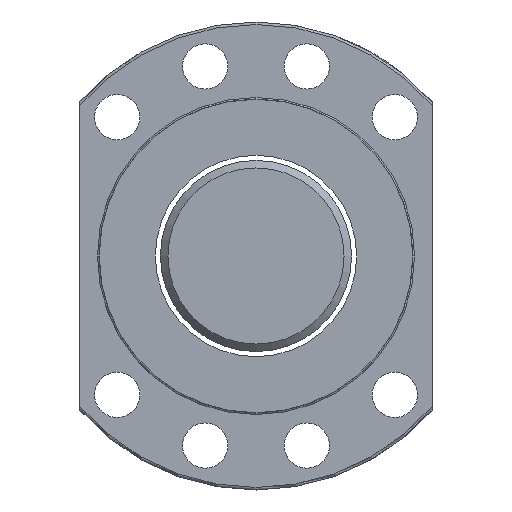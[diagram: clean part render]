
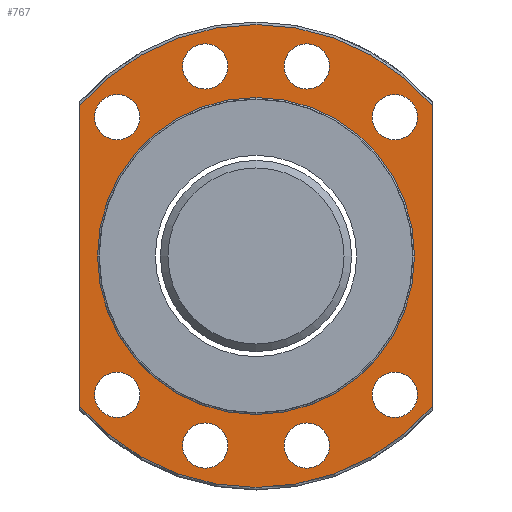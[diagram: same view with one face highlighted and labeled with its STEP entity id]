
A CAD part, left-side view. The second image highlights one B-rep face of the part: STEP entity #767.
In plain terms, the highlighted planar face has unit normal (-1, 0, 0).
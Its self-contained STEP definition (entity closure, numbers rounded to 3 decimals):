
#84=LINE('',#1271,#94);
#86=LINE('',#1304,#96);
#94=VECTOR('',#1007,1000.);
#96=VECTOR('',#1011,1000.);
#135=PLANE('',#891);
#255=ORIENTED_EDGE('',*,*,#360,.F.);
#256=ORIENTED_EDGE('',*,*,#362,.F.);
#257=ORIENTED_EDGE('',*,*,#364,.F.);
#258=ORIENTED_EDGE('',*,*,#366,.F.);
#259=ORIENTED_EDGE('',*,*,#368,.F.);
#260=ORIENTED_EDGE('',*,*,#370,.F.);
#261=ORIENTED_EDGE('',*,*,#372,.F.);
#262=ORIENTED_EDGE('',*,*,#374,.F.);
#263=ORIENTED_EDGE('',*,*,#384,.T.);
#264=ORIENTED_EDGE('',*,*,#349,.F.);
#265=ORIENTED_EDGE('',*,*,#387,.F.);
#266=ORIENTED_EDGE('',*,*,#356,.T.);
#267=ORIENTED_EDGE('',*,*,#388,.F.);
#349=EDGE_CURVE('',#436,#437,#84,.T.);
#356=EDGE_CURVE('',#442,#441,#86,.T.);
#360=EDGE_CURVE('',#445,#445,#496,.T.);
#362=EDGE_CURVE('',#447,#447,#498,.T.);
#364=EDGE_CURVE('',#449,#449,#500,.T.);
#366=EDGE_CURVE('',#451,#451,#502,.T.);
#368=EDGE_CURVE('',#453,#453,#504,.T.);
#370=EDGE_CURVE('',#455,#455,#506,.T.);
#372=EDGE_CURVE('',#457,#457,#508,.T.);
#374=EDGE_CURVE('',#459,#459,#510,.T.);
#384=EDGE_CURVE('',#467,#467,#516,.T.);
#387=EDGE_CURVE('',#442,#436,#519,.T.);
#388=EDGE_CURVE('',#437,#441,#520,.T.);
#436=VERTEX_POINT('',#1270);
#437=VERTEX_POINT('',#1272);
#441=VERTEX_POINT('',#1303);
#442=VERTEX_POINT('',#1305);
#445=VERTEX_POINT('',#1317);
#447=VERTEX_POINT('',#1322);
#449=VERTEX_POINT('',#1327);
#451=VERTEX_POINT('',#1332);
#453=VERTEX_POINT('',#1337);
#455=VERTEX_POINT('',#1342);
#457=VERTEX_POINT('',#1347);
#459=VERTEX_POINT('',#1352);
#467=VERTEX_POINT('',#1381);
#496=CIRCLE('',#854,4.5);
#498=CIRCLE('',#857,4.5);
#500=CIRCLE('',#860,4.5);
#502=CIRCLE('',#863,4.5);
#504=CIRCLE('',#866,4.5);
#506=CIRCLE('',#869,4.5);
#508=CIRCLE('',#872,4.5);
#510=CIRCLE('',#875,4.5);
#516=CIRCLE('',#886,31.5);
#519=CIRCLE('',#892,46.);
#520=CIRCLE('',#893,46.);
#602=EDGE_LOOP('',(#255));
#603=EDGE_LOOP('',(#256));
#604=EDGE_LOOP('',(#257));
#605=EDGE_LOOP('',(#258));
#606=EDGE_LOOP('',(#259));
#607=EDGE_LOOP('',(#260));
#608=EDGE_LOOP('',(#261));
#609=EDGE_LOOP('',(#262));
#610=EDGE_LOOP('',(#263));
#611=EDGE_LOOP('',(#264,#265,#266,#267));
#703=FACE_BOUND('',#602,.T.);
#704=FACE_BOUND('',#603,.T.);
#705=FACE_BOUND('',#604,.T.);
#706=FACE_BOUND('',#605,.T.);
#707=FACE_BOUND('',#606,.T.);
#708=FACE_BOUND('',#607,.T.);
#709=FACE_BOUND('',#608,.T.);
#710=FACE_BOUND('',#609,.T.);
#711=FACE_BOUND('',#610,.T.);
#712=FACE_BOUND('',#611,.T.);
#767=ADVANCED_FACE('',(#703,#704,#705,#706,#707,#708,#709,#710,#711,#712),
#135,.T.);
#854=AXIS2_PLACEMENT_3D('',#1316,#1017,#1018);
#857=AXIS2_PLACEMENT_3D('',#1321,#1023,#1024);
#860=AXIS2_PLACEMENT_3D('',#1326,#1029,#1030);
#863=AXIS2_PLACEMENT_3D('',#1331,#1035,#1036);
#866=AXIS2_PLACEMENT_3D('',#1336,#1041,#1042);
#869=AXIS2_PLACEMENT_3D('',#1341,#1047,#1048);
#872=AXIS2_PLACEMENT_3D('',#1346,#1053,#1054);
#875=AXIS2_PLACEMENT_3D('',#1351,#1059,#1060);
#886=AXIS2_PLACEMENT_3D('',#1380,#1083,#1084);
#891=AXIS2_PLACEMENT_3D('',#1386,#1093,#1094);
#892=AXIS2_PLACEMENT_3D('',#1387,#1095,#1096);
#893=AXIS2_PLACEMENT_3D('',#1388,#1097,#1098);
#1007=DIRECTION('',(0.,0.,1.));
#1011=DIRECTION('',(0.,0.,1.));
#1017=DIRECTION('',(-1.,0.,0.));
#1018=DIRECTION('',(0.,-1.,0.));
#1023=DIRECTION('',(-1.,0.,0.));
#1024=DIRECTION('',(0.,-1.,0.));
#1029=DIRECTION('',(-1.,0.,0.));
#1030=DIRECTION('',(0.,-1.,0.));
#1035=DIRECTION('',(-1.,0.,0.));
#1036=DIRECTION('',(0.,-1.,0.));
#1041=DIRECTION('',(-1.,0.,0.));
#1042=DIRECTION('',(0.,-1.,0.));
#1047=DIRECTION('',(-1.,0.,0.));
#1048=DIRECTION('',(0.,-1.,0.));
#1053=DIRECTION('',(-1.,0.,0.));
#1054=DIRECTION('',(0.,-1.,0.));
#1059=DIRECTION('',(-1.,0.,0.));
#1060=DIRECTION('',(0.,-1.,0.));
#1083=DIRECTION('',(1.,0.,0.));
#1084=DIRECTION('',(0.,1.,0.));
#1093=DIRECTION('',(-1.,0.,0.));
#1094=DIRECTION('',(0.,-1.,0.));
#1095=DIRECTION('',(1.,0.,0.));
#1096=DIRECTION('',(0.,1.,0.));
#1097=DIRECTION('',(1.,0.,0.));
#1098=DIRECTION('',(0.,1.,0.));
#1270=CARTESIAN_POINT('',(-29.,35.,-29.85));
#1271=CARTESIAN_POINT('',(-29.,35.,0.));
#1272=CARTESIAN_POINT('',(-29.,35.,29.85));
#1303=CARTESIAN_POINT('',(-29.,-35.,29.85));
#1304=CARTESIAN_POINT('',(-29.,-35.,0.));
#1305=CARTESIAN_POINT('',(-29.,-35.,-29.85));
#1316=CARTESIAN_POINT('',(-29.,27.577,-27.577));
#1317=CARTESIAN_POINT('',(-29.,23.077,-27.577));
#1321=CARTESIAN_POINT('',(-29.,-27.577,-27.577));
#1322=CARTESIAN_POINT('',(-29.,-32.077,-27.577));
#1326=CARTESIAN_POINT('',(-29.,27.577,27.577));
#1327=CARTESIAN_POINT('',(-29.,23.077,27.577));
#1331=CARTESIAN_POINT('',(-29.,-27.577,27.577));
#1332=CARTESIAN_POINT('',(-29.,-32.077,27.577));
#1336=CARTESIAN_POINT('',(-29.,10.094,-37.671));
#1337=CARTESIAN_POINT('',(-29.,5.594,-37.671));
#1341=CARTESIAN_POINT('',(-29.,-10.094,-37.671));
#1342=CARTESIAN_POINT('',(-29.,-14.594,-37.671));
#1346=CARTESIAN_POINT('',(-29.,-10.094,37.671));
#1347=CARTESIAN_POINT('',(-29.,-14.594,37.671));
#1351=CARTESIAN_POINT('',(-29.,10.094,37.671));
#1352=CARTESIAN_POINT('',(-29.,5.594,37.671));
#1380=CARTESIAN_POINT('',(-29.,0.,0.));
#1381=CARTESIAN_POINT('',(-29.,31.5,0.));
#1386=CARTESIAN_POINT('',(-29.,38.75,0.));
#1387=CARTESIAN_POINT('',(-29.,0.,0.));
#1388=CARTESIAN_POINT('',(-29.,0.,0.));
